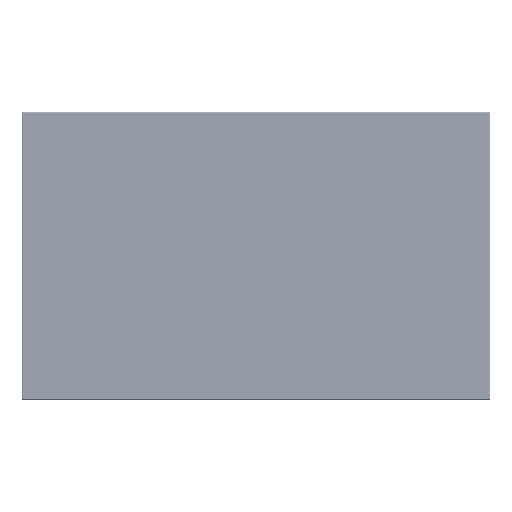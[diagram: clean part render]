
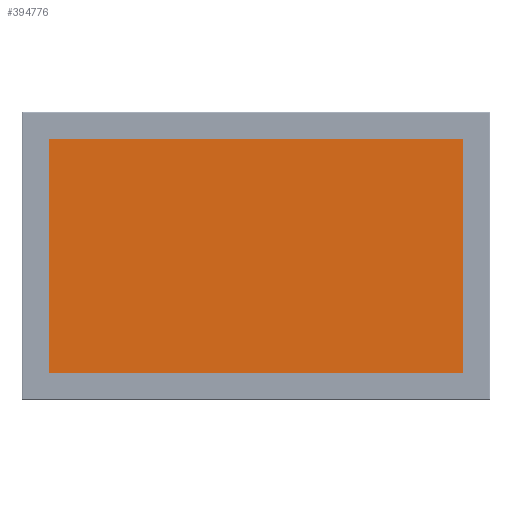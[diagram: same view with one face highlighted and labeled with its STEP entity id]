
A CAD part, top view. The second image highlights one B-rep face of the part: STEP entity #394776.
In plain terms, the highlighted planar face has unit normal (0, 0, 1).
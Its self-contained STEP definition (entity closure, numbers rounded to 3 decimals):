
#2558 = PLANE ( 'NONE',  #497083 ) ;
#12908 = CARTESIAN_POINT ( 'NONE',  ( -238.92, 134.655, 0. ) ) ;
#33892 = LINE ( 'NONE', #451680, #76516 ) ;
#46352 = CARTESIAN_POINT ( 'NONE',  ( 238.92, 134.655, 0. ) ) ;
#76516 = VECTOR ( 'NONE', #228167, 1000. ) ;
#107861 = DIRECTION ( 'NONE',  ( 0., 1., 0. ) ) ;
#160947 = VECTOR ( 'NONE', #107861, 1000. ) ;
#179708 = CARTESIAN_POINT ( 'NONE',  ( 0., 0., 0. ) ) ;
#180676 = DIRECTION ( 'NONE',  ( 0., -1., 0. ) ) ;
#181014 = VERTEX_POINT ( 'NONE', #46352 ) ;
#223657 = CARTESIAN_POINT ( 'NONE',  ( 238.92, -134.655, 0. ) ) ;
#224591 = EDGE_CURVE ( 'NONE', #491956, #181014, #332686, .T. ) ;
#228167 = DIRECTION ( 'NONE',  ( 1., 0., 0. ) ) ;
#283057 = DIRECTION ( 'NONE',  ( 1., 0., 0. ) ) ;
#309248 = CARTESIAN_POINT ( 'NONE',  ( -238.92, 134.655, 0. ) ) ;
#326734 = EDGE_CURVE ( 'NONE', #181014, #396638, #496666, .T. ) ;
#332686 = LINE ( 'NONE', #604938, #160947 ) ;
#358657 = VECTOR ( 'NONE', #364553, 1000. ) ;
#364553 = DIRECTION ( 'NONE',  ( -1., 0., 0. ) ) ;
#370826 = ORIENTED_EDGE ( 'NONE', *, *, #224591, .T. ) ;
#371903 = ORIENTED_EDGE ( 'NONE', *, *, #637191, .T. ) ;
#394776 = ADVANCED_FACE ( 'NONE', ( #503785 ), #2558, .T. ) ;
#396638 = VERTEX_POINT ( 'NONE', #421495 ) ;
#404172 = EDGE_LOOP ( 'NONE', ( #371903, #474549, #370826, #548165 ) ) ;
#418090 = EDGE_CURVE ( 'NONE', #426740, #491956, #33892, .T. ) ;
#421495 = CARTESIAN_POINT ( 'NONE',  ( -238.92, 134.655, 0. ) ) ;
#426740 = VERTEX_POINT ( 'NONE', #663222 ) ;
#451680 = CARTESIAN_POINT ( 'NONE',  ( -238.92, -134.655, 0. ) ) ;
#474549 = ORIENTED_EDGE ( 'NONE', *, *, #418090, .T. ) ;
#475092 = LINE ( 'NONE', #12908, #681043 ) ;
#491956 = VERTEX_POINT ( 'NONE', #223657 ) ;
#496666 = LINE ( 'NONE', #309248, #358657 ) ;
#497083 = AXIS2_PLACEMENT_3D ( 'NONE', #179708, #508869, #283057 ) ;
#503785 = FACE_OUTER_BOUND ( 'NONE', #404172, .T. ) ;
#508869 = DIRECTION ( 'NONE',  ( 0., 0., 1. ) ) ;
#548165 = ORIENTED_EDGE ( 'NONE', *, *, #326734, .T. ) ;
#604938 = CARTESIAN_POINT ( 'NONE',  ( 238.92, 134.655, 0. ) ) ;
#637191 = EDGE_CURVE ( 'NONE', #396638, #426740, #475092, .T. ) ;
#663222 = CARTESIAN_POINT ( 'NONE',  ( -238.92, -134.655, 0. ) ) ;
#681043 = VECTOR ( 'NONE', #180676, 1000. ) ;
